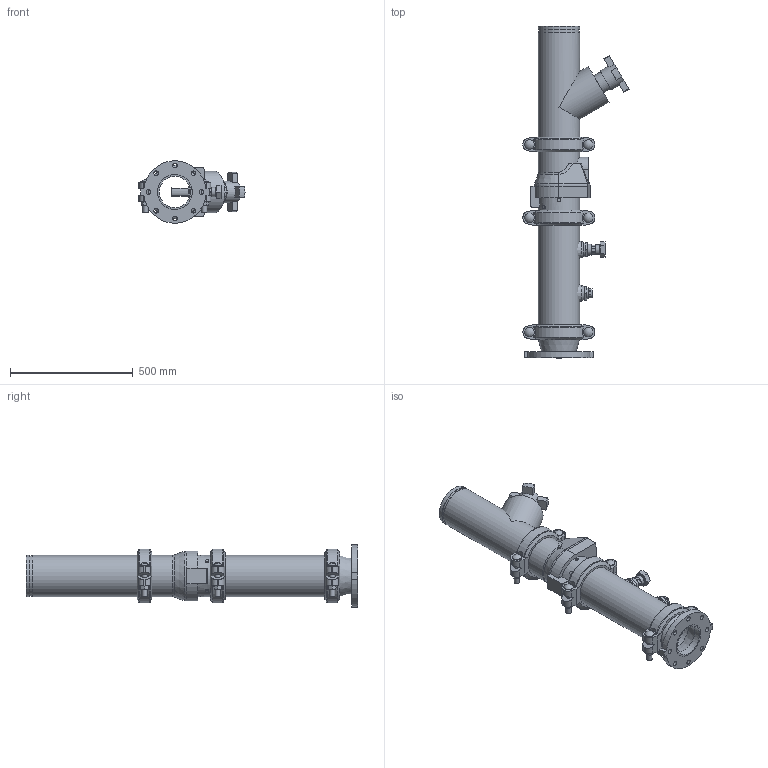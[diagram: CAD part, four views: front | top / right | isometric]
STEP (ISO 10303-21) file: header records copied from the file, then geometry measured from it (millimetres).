
FILE_DESCRIPTION(/* description */ ('VIC DVI PUMP DROP VERT S/383 (OGSxFLG) (S/924-1.25)','CAx-IF Rec.Pracs.---Representation and Presentation of Product Manufacturing Information (PMI)---4.0---2014-10-13'),/* implementation_level */ '2;1');
FILE_NAME(/* name */ 'C:\Users\Public\Documents\Victaulic.Temp\A849\Victaulic_IPS_Vertical DVI_CL 150_Series 383 (OGSxFLG)_924 (1.25)_06.0x05.0 (150x125).stp',/* time_stamp */ '2022-07-25T11:40:50+02:00',/* author */ ('Vjadhav'),/* organization */ ('Victaulic'),/* preprocessor_version */ 'ST-DEVELOPER v18',/* originating_system */ 'Autodesk Inventor 2020',/* authorisation */ '');
FILE_SCHEMA (('AP242_MANAGED_MODEL_BASED_3D_ENGINEERING_MIM_LF { 1 0 10303 442 1 1 4 }'));
Length unit declared in the file: inch
Products named in the file (9): 383_924 (1.25)-06.0x05.0; 741-05.0; 050-06.0x05.0; Pipe-06.0x04.0; 177N-06.0; 789-06.0; 779-06.0; 924-04.0x01.25; 923-04.0x0.75
Assembly tree (10 placements, depth 2):
  383_924 (1.25)-06.0x05.0
    741-05.0
    050-06.0x05.0
    177N-06.0  x3
    Pipe-06.0x04.0
    789-06.0
    779-06.0
    924-04.0x01.25
    923-04.0x0.75
Bounding box: 432.05 x 1352.55 x 253.05 mm (x, y, z)
Volume: 14539606.9 mm3; surface area: 2211684.5 mm2
Topology: 10 solids, 11 shells, 548 faces, 1445 edges, 971 vertices
Faces by surface type: plane 321, cylinder 182, cone 19, torus 18, sphere 6, bspline 2
Full cylindrical faces by diameter (mm): 13.716 x4, 19.05 x8, 21.209 x6, 21.336 x1, 26.67 x2, 37.694 x6, 38.608 x1, 42.164 x1, 45.974 x4, 48.514 x1, 55.626 x2, 79.375 x1, 88.9 x1, 128.194 x1, 137.033 x1, 141.3 x3, 154.051 x4, 155.575 x3, 163.957 x7, 168.275 x19
Entity records: 12623 total; most frequent: CARTESIAN_POINT 2571, DIRECTION 2077, ORIENTED_EDGE 1870, EDGE_CURVE 935, AXIS2_PLACEMENT_3D 793, VERTEX_POINT 635, LINE 491, VECTOR 491
